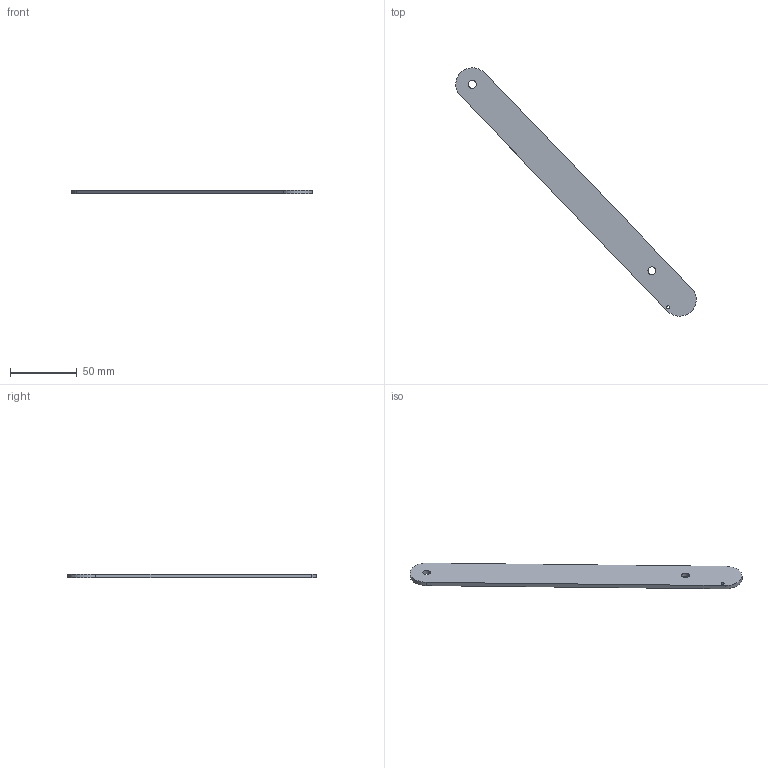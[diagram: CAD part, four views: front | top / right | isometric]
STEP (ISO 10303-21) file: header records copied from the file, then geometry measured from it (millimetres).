
FILE_DESCRIPTION((''),'2;1');
FILE_NAME('0000187151','2024-01-01T18:32:25',('Wyndorps'),(''),'CREO PARAMETRIC BY PTC INC, 2022484','CREO PARAMETRIC BY PTC INC, 2022484','');
FILE_SCHEMA(('CONFIG_CONTROL_DESIGN'));
Length unit declared in the file: millimetre
Products named in the file (1): 0000187151
Bounding box: 180.66 x 186.59 x 3 mm (x, y, z)
Volume: 18122.3 mm3; surface area: 13800.6 mm2
Topology: 1 solids, 1 shells, 12 faces, 30 edges, 20 vertices
Faces by surface type: cylinder 8, plane 4
Entity records: 420 total; most frequent: DIRECTION 70, CARTESIAN_POINT 62, ORIENTED_EDGE 60, EDGE_CURVE 30, AXIS2_PLACEMENT_3D 28, VERTEX_POINT 20, EDGE_LOOP 18, CIRCLE 16
